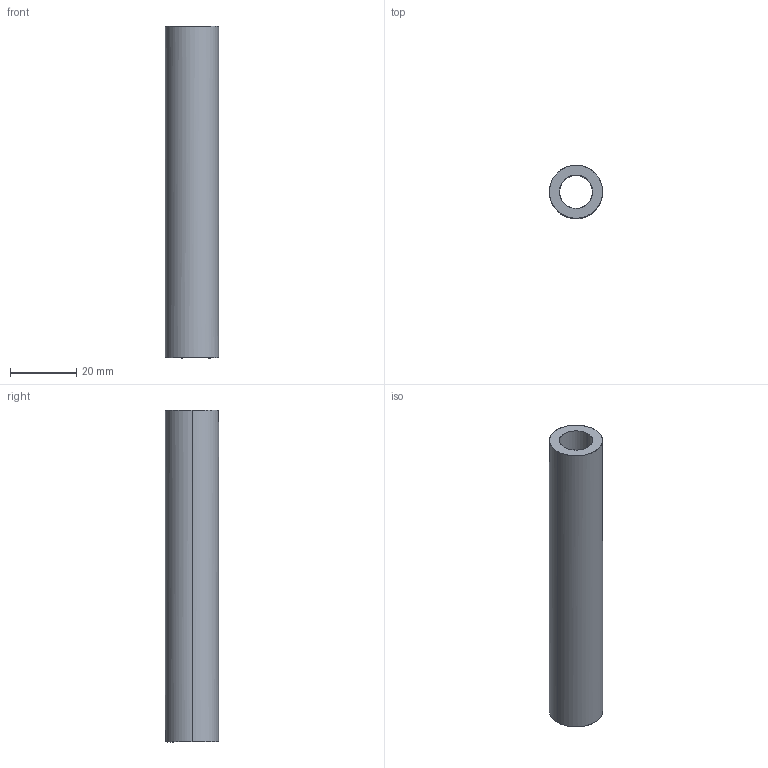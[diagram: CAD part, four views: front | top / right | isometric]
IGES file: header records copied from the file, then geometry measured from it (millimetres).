
Global section: file name: E:\UnigraphicsGraphicData\MISUMI_PRESS-PARTS\IGES\3d_sb16-100_00134_r00.igs; native system: NX V5.0; preprocessor: UGS NX IGES V5.0; author: MISUMI; date: 20110105.162424; units: millimetre
Bounding box: 16 x 16 x 100 mm (x, y, z)
Surface area: 8414 mm2 (no closed solid volume)
Topology: 0 solids, 0 shells, 6 faces, 48 edges, 48 vertices
Faces by surface type: bspline 6
